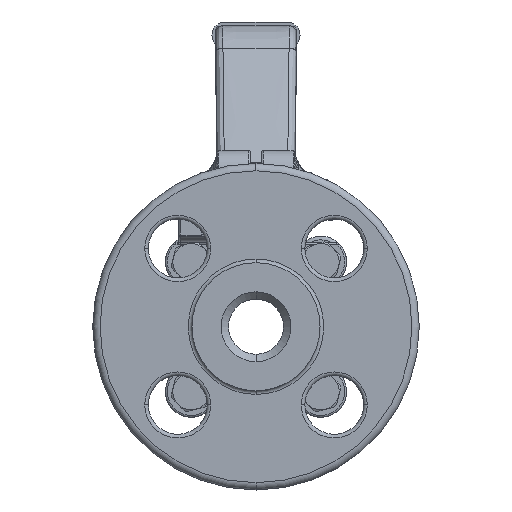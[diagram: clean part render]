
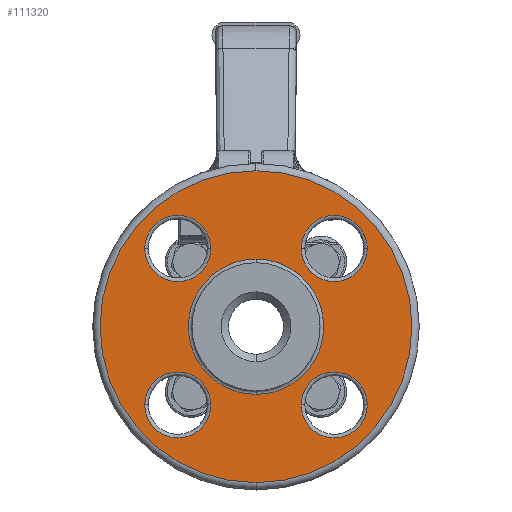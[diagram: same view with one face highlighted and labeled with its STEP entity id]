
A CAD part, left-side view. The second image highlights one B-rep face of the part: STEP entity #111320.
In plain terms, the highlighted planar face has unit normal (-1, 0, 0).
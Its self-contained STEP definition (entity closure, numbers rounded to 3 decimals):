
#6=CARTESIAN_POINT('',(-41.4,0.,0.));
#7=DIRECTION('',(1.,0.,0.));
#8=DIRECTION('',(0.,0.,1.));
#9=AXIS2_PLACEMENT_3D('',#6,#7,#8);
#21=CARTESIAN_POINT('',(-41.4,0.,0.));
#22=DIRECTION('',(1.,0.,0.));
#23=DIRECTION('',(0.,0.,-1.));
#24=AXIS2_PLACEMENT_3D('',#21,#22,#23);
#32912=CARTESIAN_POINT('',(-41.4,0.,0.));
#32913=DIRECTION('',(-1.,0.,0.));
#32914=DIRECTION('',(0.,0.,1.));
#32915=AXIS2_PLACEMENT_3D('',#32912,#32913,#32914);
#32927=CARTESIAN_POINT('',(-41.4,0.,0.));
#32928=DIRECTION('',(-1.,0.,0.));
#32929=DIRECTION('',(0.,0.,-1.));
#32930=AXIS2_PLACEMENT_3D('',#32927,#32928,#32929);
#32942=CARTESIAN_POINT('',(-41.4,21.319,21.319));
#32943=DIRECTION('',(1.,0.,0.));
#32944=DIRECTION('',(0.,1.,0.));
#32945=AXIS2_PLACEMENT_3D('',#32942,#32943,#32944);
#32957=CARTESIAN_POINT('',(-41.4,21.319,21.319));
#32958=DIRECTION('',(1.,0.,0.));
#32959=DIRECTION('',(0.,-1.,0.));
#32960=AXIS2_PLACEMENT_3D('',#32957,#32958,#32959);
#33010=CARTESIAN_POINT('',(-41.4,-21.319,21.319));
#33011=DIRECTION('',(1.,0.,0.));
#33012=DIRECTION('',(0.,-1.,0.));
#33013=AXIS2_PLACEMENT_3D('',#33010,#33011,#33012);
#33025=CARTESIAN_POINT('',(-41.4,-21.319,21.319));
#33026=DIRECTION('',(1.,0.,0.));
#33027=DIRECTION('',(0.,1.,0.));
#33028=AXIS2_PLACEMENT_3D('',#33025,#33026,#33027);
#33078=CARTESIAN_POINT('',(-41.4,-21.319,-21.319));
#33079=DIRECTION('',(1.,0.,0.));
#33080=DIRECTION('',(0.,1.,0.));
#33081=AXIS2_PLACEMENT_3D('',#33078,#33079,#33080);
#33093=CARTESIAN_POINT('',(-41.4,-21.319,-21.319));
#33094=DIRECTION('',(1.,0.,0.));
#33095=DIRECTION('',(0.,-1.,0.));
#33096=AXIS2_PLACEMENT_3D('',#33093,#33094,#33095);
#33146=CARTESIAN_POINT('',(-41.4,21.319,-21.319));
#33147=DIRECTION('',(1.,0.,0.));
#33148=DIRECTION('',(0.,1.,0.));
#33149=AXIS2_PLACEMENT_3D('',#33146,#33147,#33148);
#33161=CARTESIAN_POINT('',(-41.4,21.319,-21.319));
#33162=DIRECTION('',(1.,0.,0.));
#33163=DIRECTION('',(0.,-1.,0.));
#33164=AXIS2_PLACEMENT_3D('',#33161,#33162,#33163);
#43719=CARTESIAN_POINT('',(-41.4,0.,-42.5));
#43720=CARTESIAN_POINT('',(-41.4,0.,42.5));
#43721=VERTEX_POINT('',#43719);
#43722=VERTEX_POINT('',#43720);
#44503=CARTESIAN_POINT('',(-41.4,30.319,21.319));
#44504=CARTESIAN_POINT('',(-41.4,12.319,21.319));
#44505=VERTEX_POINT('',#44503);
#44506=VERTEX_POINT('',#44504);
#44519=CARTESIAN_POINT('',(-41.4,-30.319,21.319));
#44520=CARTESIAN_POINT('',(-41.4,-12.319,21.319));
#44521=VERTEX_POINT('',#44519);
#44522=VERTEX_POINT('',#44520);
#44535=CARTESIAN_POINT('',(-41.4,-12.319,-21.319));
#44536=CARTESIAN_POINT('',(-41.4,-30.319,-21.319));
#44537=VERTEX_POINT('',#44535);
#44538=VERTEX_POINT('',#44536);
#44551=CARTESIAN_POINT('',(-41.4,30.319,-21.319));
#44552=CARTESIAN_POINT('',(-41.4,12.319,-21.319));
#44553=VERTEX_POINT('',#44551);
#44554=VERTEX_POINT('',#44552);
#45100=CARTESIAN_POINT('',(-41.4,0.,-18.45));
#45101=CARTESIAN_POINT('',(-41.4,0.,18.45));
#45102=VERTEX_POINT('',#45100);
#45103=VERTEX_POINT('',#45101);
#111282=CARTESIAN_POINT('',(-41.4,0.,0.));
#111283=DIRECTION('',(-1.,0.,0.));
#111284=DIRECTION('',(0.,0.,1.));
#111285=AXIS2_PLACEMENT_3D('',#111282,#111283,#111284);
#111286=PLANE('',#111285);
#111287=ORIENTED_EDGE('',*,*,#53074,.T.);
#111288=ORIENTED_EDGE('',*,*,#53059,.T.);
#111289=EDGE_LOOP('',(#111287,#111288));
#111290=FACE_OUTER_BOUND('',#111289,.F.);
#111292=ORIENTED_EDGE('',*,*,#111291,.T.);
#111293=ORIENTED_EDGE('',*,*,#111272,.T.);
#111294=EDGE_LOOP('',(#111292,#111293));
#111295=FACE_BOUND('',#111294,.F.);
#111297=ORIENTED_EDGE('',*,*,#111296,.F.);
#111299=ORIENTED_EDGE('',*,*,#111298,.F.);
#111300=EDGE_LOOP('',(#111297,#111299));
#111301=FACE_BOUND('',#111300,.F.);
#111303=ORIENTED_EDGE('',*,*,#111302,.F.);
#111305=ORIENTED_EDGE('',*,*,#111304,.F.);
#111306=EDGE_LOOP('',(#111303,#111305));
#111307=FACE_BOUND('',#111306,.F.);
#111309=ORIENTED_EDGE('',*,*,#111308,.F.);
#111311=ORIENTED_EDGE('',*,*,#111310,.F.);
#111312=EDGE_LOOP('',(#111309,#111311));
#111313=FACE_BOUND('',#111312,.F.);
#111315=ORIENTED_EDGE('',*,*,#111314,.F.);
#111317=ORIENTED_EDGE('',*,*,#111316,.F.);
#111318=EDGE_LOOP('',(#111315,#111317));
#111319=FACE_BOUND('',#111318,.F.);
#111320=ADVANCED_FACE('',(#111290,#111295,#111301,#111307,#111313,#111319),
#111286,.T.);
#10=CIRCLE('',#9,42.5);
#25=CIRCLE('',#24,42.5);
#32916=CIRCLE('',#32915,18.45);
#32931=CIRCLE('',#32930,18.45);
#32946=CIRCLE('',#32945,9.);
#32961=CIRCLE('',#32960,9.);
#33014=CIRCLE('',#33013,9.);
#33029=CIRCLE('',#33028,9.);
#33082=CIRCLE('',#33081,9.);
#33097=CIRCLE('',#33096,9.);
#33150=CIRCLE('',#33149,9.);
#33165=CIRCLE('',#33164,9.);
#53059=EDGE_CURVE('',#43722,#43721,#10,.T.);
#53074=EDGE_CURVE('',#43721,#43722,#25,.T.);
#111272=EDGE_CURVE('',#45103,#45102,#32916,.T.);
#111291=EDGE_CURVE('',#45102,#45103,#32931,.T.);
#111296=EDGE_CURVE('',#44505,#44506,#32946,.T.);
#111298=EDGE_CURVE('',#44506,#44505,#32961,.T.);
#111302=EDGE_CURVE('',#44521,#44522,#33014,.T.);
#111304=EDGE_CURVE('',#44522,#44521,#33029,.T.);
#111308=EDGE_CURVE('',#44537,#44538,#33082,.T.);
#111310=EDGE_CURVE('',#44538,#44537,#33097,.T.);
#111314=EDGE_CURVE('',#44553,#44554,#33150,.T.);
#111316=EDGE_CURVE('',#44554,#44553,#33165,.T.);
